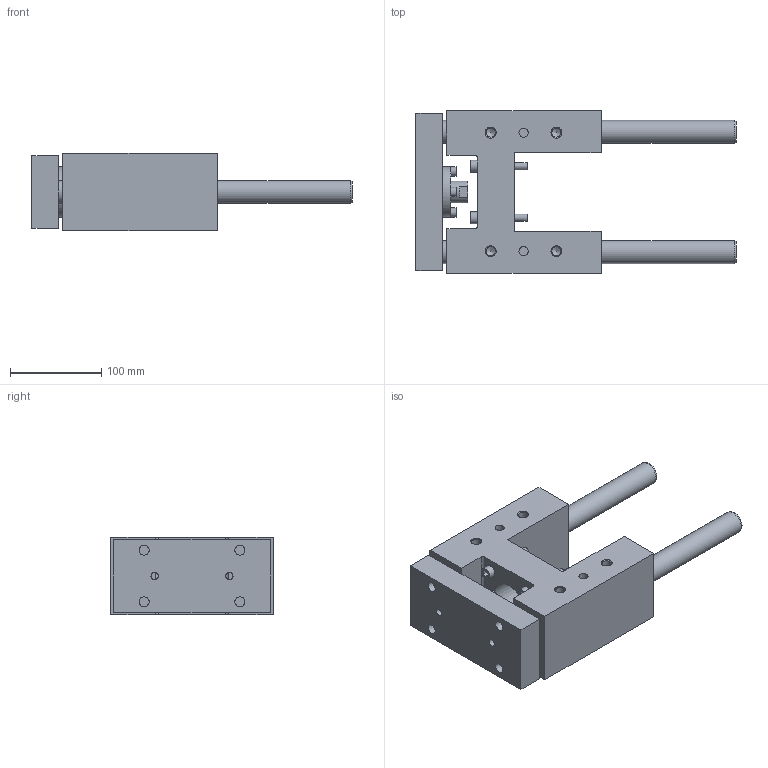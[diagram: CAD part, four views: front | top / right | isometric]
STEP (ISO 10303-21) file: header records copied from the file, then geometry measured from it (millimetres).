
FILE_DESCRIPTION( ( 'STEP AP214' ), '1' );
FILE_NAME( 'U:/Etudes/Top Solid/BIBLIO 3D AVM/TOP/PNEUMATIQUE/GUIDAGES/Type 32 (en H)/R_Renforcée/327R2_30.step', '2005-05-27T09:05:27', ( ' ' ), ( ' ' ), 'XStep 1.0', ' ', ' ' );
FILE_SCHEMA( ( 'automotive_design' ) );
Length unit declared in the file: metre
Products named in the file (2): 1; 2
Bounding box: 351 x 178 x 85 mm (x, y, z)
Volume: 2112775.4 mm3; surface area: 270473.7 mm2
Topology: 2 solids, 7 shells, 209 faces, 484 edges, 321 vertices
Faces by surface type: plane 118, cylinder 70, cone 21
Full cylindrical faces by diameter (mm): 6 x8, 6.5 x4, 8 x10, 8.376 x4, 9 x4, 10 x6, 10.106 x8, 11 x4, 13 x4, 14.376 x2, 18 x4, 24 x1, 25 x4, 26 x1, 34 x1, 37 x1, 45 x1, 55 x1
Entity records: 7089 total; most frequent: CARTESIAN_POINT 1103, DIRECTION 900, ORIENTED_EDGE 696, EDGE_LOOP 358, AXIS2_PLACEMENT_3D 349, EDGE_CURVE 348, VERTEX_POINT 280, FACE_OUTER_BOUND 277
